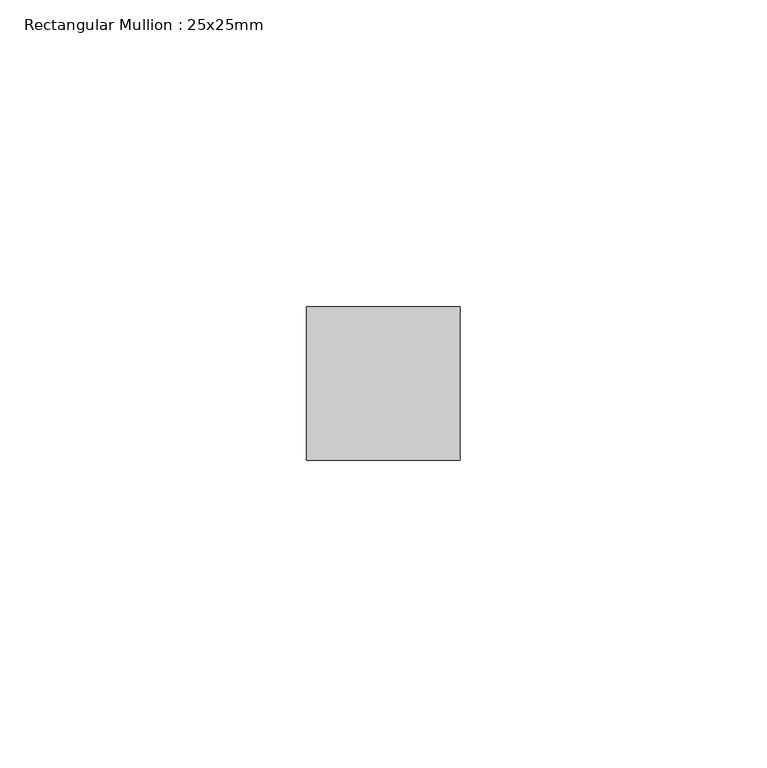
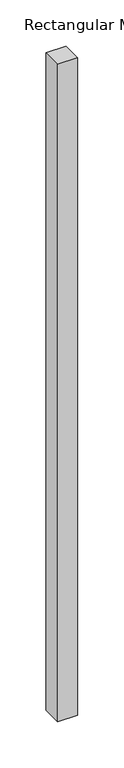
"""IFC4 building model written with IfcOpenShell, lengths in millimetres: member geometry, Rectangular Mullion : 25x25mm."""

import ifcopenshell
import ifcopenshell.guid

model = None  # the IFC model being written
_history = None  # IfcOwnerHistory: only IFC2X3 demands one
_inside = {}  # id of a spatial element -> (the spatial element, [elements in it])
_under = {}  # id of a project, library or spatial element -> (it, [spatial elements below it])
_declared = {}  # id of a project -> (the project, [libraries it declares])
_typed = {}  # id of a type object -> (the type object, [elements of that type])
_made_of = {}  # id of a material, layer set ... -> (it, [elements and type objects made of it])


def new_model(schema):
    """Start an empty IFC model of exactly this schema.

    Asked for "IFC4X3", IfcOpenShell would pick the latest addendum, in which some entities
    have other attributes; the version numbers below select the first issue.
    IFC2X3 requires an IfcOwnerHistory on every rooted entity: one is made here for all.
    """
    global model, _history
    if schema == "IFC4X3":
        model = ifcopenshell.file(schema_version=(4, 3, 0, 0))
    else:
        model = ifcopenshell.file(schema=schema)
    _inside.clear()
    _under.clear()
    _declared.clear()
    _typed.clear()
    _made_of.clear()
    _history = None
    if model.schema == "IFC2X3":
        org = make("IfcOrganization", Name="unknown")
        user = make(
            "IfcPersonAndOrganization",
            ThePerson=make("IfcPerson", FamilyName="unknown"),
            TheOrganization=org,
        )
        app = make(
            "IfcApplication",
            ApplicationDeveloper=org,
            Version="unknown",
            ApplicationFullName="unknown",
            ApplicationIdentifier="unknown",
        )
        _history = make(
            "IfcOwnerHistory",
            OwningUser=user,
            OwningApplication=app,
            ChangeAction="ADDED",
            CreationDate=0,
        )
    return model


def make(cls, **values):
    """One entity of the class cls with the attributes given. An attribute that is None is left unset."""
    return model.create_entity(
        cls, **{name: value for name, value in values.items() if value is not None}
    )


def rooted(cls, **values):
    """An entity with a GlobalId (a new one), such as an element, a storey or a relation."""
    return make(cls, GlobalId=ifcopenshell.guid.new(), OwnerHistory=_history, **values)


def si_unit(unit_type, name, prefix=None):
    """IfcSIUnit, for example si_unit("LENGTHUNIT", "METRE", prefix="MILLI")."""
    return make("IfcSIUnit", UnitType=unit_type, Prefix=prefix, Name=name)


def assignment(units):
    """IfcUnitAssignment: the units of a project."""
    return None if units is None else make("IfcUnitAssignment", Units=units)


def point(xyz):
    """IfcCartesianPoint."""
    return None if xyz is None else make("IfcCartesianPoint", Coordinates=xyz)


def direction(xyz):
    """IfcDirection."""
    return None if xyz is None else make("IfcDirection", DirectionRatios=xyz)


def frame(location, z_axis=None, x_axis=None):
    """IfcAxis2Placement3D, a coordinate frame: its origin and axes. An axis left out is left unset."""
    return make(
        "IfcAxis2Placement3D",
        Location=point(location),
        Axis=direction(z_axis),
        RefDirection=direction(x_axis),
    )


def origin():
    """The frame at (0, 0, 0) with its axes left unset."""
    return frame((0.0, 0.0, 0.0))


def place(relative_to, where):
    """IfcLocalPlacement: puts the frame where relative to a parent placement (None: the world)."""
    return make(
        "IfcLocalPlacement", PlacementRelTo=relative_to, RelativePlacement=where
    )


def context(
    kind, dimensions, precision=None, world=None, true_north=None, identifier=None
):
    """IfcGeometricRepresentationContext, for example the 3D "Model" context."""
    return make(
        "IfcGeometricRepresentationContext",
        ContextIdentifier=identifier,
        ContextType=kind,
        CoordinateSpaceDimension=dimensions,
        Precision=precision,
        WorldCoordinateSystem=world,
        TrueNorth=true_north,
    )


def project(units=None, contexts=None):
    """IfcProject with its units and contexts."""
    return rooted(
        "IfcProject",
        Name="project",
        RepresentationContexts=contexts,
        UnitsInContext=assignment(units),
    )


def spatial(cls, under=None, at=None, **own):
    """A site, building, storey or space (cls), placed at a placement, below another one or the project."""
    s = rooted(cls, ObjectPlacement=at, **own)
    if under is not None:
        _under.setdefault(under.id(), (under, []))[1].append(s)
    return s


def polyline(points):
    """IfcPolyline through the points."""
    return make("IfcPolyline", Points=[point(p) for p in points])


def outline(outer, holes=None, kind="AREA"):
    """IfcArbitraryClosedProfileDef: a profile drawn as a closed curve; with holes, ...WithVoids."""
    if holes is None:
        return make("IfcArbitraryClosedProfileDef", ProfileType=kind, OuterCurve=outer)
    return make(
        "IfcArbitraryProfileDefWithVoids",
        ProfileType=kind,
        OuterCurve=outer,
        InnerCurves=holes,
    )


def extrude(swept, where, along, depth):
    """IfcExtrudedAreaSolid: the profile swept, set in the frame where, extruded along a direction by depth."""
    return make(
        "IfcExtrudedAreaSolid",
        SweptArea=swept,
        Position=where,
        ExtrudedDirection=direction(along),
        Depth=depth,
    )


def shape(context_of_items, identifier, shape_type, items):
    """IfcShapeRepresentation: the items that make up one representation, for example the "Body"."""
    return make(
        "IfcShapeRepresentation",
        ContextOfItems=context_of_items,
        RepresentationIdentifier=identifier,
        RepresentationType=shape_type,
        Items=items,
    )


def source(mapping_origin, context_of_items, identifier, shape_type, items):
    """IfcRepresentationMap: a shape defined once, which mapped items show again and again."""
    return make(
        "IfcRepresentationMap",
        MappingOrigin=mapping_origin,
        MappedRepresentation=shape(context_of_items, identifier, shape_type, items),
    )


def transform(
    local_origin,
    x_axis=None,
    y_axis=None,
    z_axis=None,
    scale=None,
    scale2=None,
    scale3=None,
    uniform=True,
):
    """IfcCartesianTransformationOperator3D, or its non-uniform kind. x_axis, y_axis, z_axis: its Axis1, 2, 3."""
    if uniform:
        return make(
            "IfcCartesianTransformationOperator3D",
            Axis1=direction(x_axis),
            Axis2=direction(y_axis),
            LocalOrigin=point(local_origin),
            Scale=scale,
            Axis3=direction(z_axis),
        )
    return make(
        "IfcCartesianTransformationOperator3DnonUniform",
        Axis1=direction(x_axis),
        Axis2=direction(y_axis),
        LocalOrigin=point(local_origin),
        Scale=scale,
        Axis3=direction(z_axis),
        Scale2=scale2,
        Scale3=scale3,
    )


def mapped(mapping_source, mapping_target):
    """IfcMappedItem: shows the shape of a source again, moved by a transform."""
    return make(
        "IfcMappedItem", MappingSource=mapping_source, MappingTarget=mapping_target
    )


def made_of(thing, what):
    """Note that an element or type object is made of a material, layer set ...; save() writes the relation."""
    if what is not None:
        _made_of.setdefault(what.id(), (what, []))[1].append(thing)
    return thing


def element(
    cls,
    number,
    at=None,
    inside=None,
    cuts=None,
    type_object=None,
    material=None,
    context=None,
    identifier="Body",
    shape_type=None,
    held_by="IfcProductDefinitionShape",
    body=None,
    shapes=None,
    **own,
):
    """One element of the class cls, such as IfcWall. Its Tag is "e" and its number.

    at: its placement. inside: the storey or other place that contains it. cuts: it is an
    opening in that element (IfcRelVoidsElement). A single representation is given by context,
    identifier, shape_type and body (its items); several are given by shapes. held_by: the class
    of the entity that holds the representations. save() writes the other relations.
    """
    e = rooted(cls, Tag="e%d" % number, ObjectPlacement=at, **own)
    if body is not None:
        shapes = [shape(context, identifier, shape_type, body)]
    if shapes is not None:
        e.Representation = make(held_by, Representations=shapes)
    if inside is not None:
        _inside.setdefault(inside.id(), (inside, []))[1].append(e)
    if cuts is not None:
        rooted(
            "IfcRelVoidsElement", RelatingBuildingElement=cuts, RelatedOpeningElement=e
        )
    if type_object is not None:
        _typed.setdefault(type_object.id(), (type_object, []))[1].append(e)
    return made_of(e, material)


def aggregate(whole, parts):
    """IfcRelAggregates: a whole, such as a stair, and the parts it consists of."""
    return rooted("IfcRelAggregates", RelatingObject=whole, RelatedObjects=parts)


def save(model, path):
    """Write the relations noted so far, then the file.

    IfcRelAggregates (storeys below a building ...), IfcRelContainedInSpatialStructure (elements
    in a storey), IfcRelDefinesByType, IfcRelAssociatesMaterial and IfcRelDeclares: one each for
    every whole, place, type object, material and project.
    """
    for whole, parts in _under.values():
        aggregate(whole, parts)
    for where, things in _inside.values():
        rooted(
            "IfcRelContainedInSpatialStructure",
            RelatedElements=things,
            RelatingStructure=where,
        )
    for kind, things in _typed.values():
        rooted("IfcRelDefinesByType", RelatedObjects=things, RelatingType=kind)
    for what, things in _made_of.values():
        rooted("IfcRelAssociatesMaterial", RelatedObjects=things, RelatingMaterial=what)
    for by, libraries in _declared.values():
        rooted("IfcRelDeclares", RelatingContext=by, RelatedDefinitions=libraries)
    model.write(path)


def rectangular_mullion_25x25mm_58970ee0(model_context):
    return source(origin(), model_context, "Body", "SweptSolid", [
        extrude(outline(polyline([(0.0, 0.5), (0.0, -24.5), (-25.0, -24.5), (-25.0, 0.5), (0.0, 0.5)])), frame((0.0, 0.0, -865.7500002), z_axis=(0.0, 0.0, 1.0), x_axis=(1.0, 0.0, 0.0)), (0.0, 0.0, 1.0), 865.7500002),
    ])


if __name__ == "__main__":
    model = new_model("IFC4")
    model_context = context("Model", 3, world=origin())
    ifc_project = project(units=[si_unit("LENGTHUNIT", "METRE", prefix="MILLI")], contexts=[model_context])
    site = spatial("IfcSite", under=ifc_project)
    building = spatial("IfcBuilding", under=site)
    placement = place(None, origin())
    rectangular_mullion_25x25mm_shape = rectangular_mullion_25x25mm_58970ee0(model_context)
    element("IfcMember", 1, ObjectType="Rectangular Mullion : 25x25mm", at=placement, inside=building, context=model_context, shape_type="MappedRepresentation", body=[
        mapped(rectangular_mullion_25x25mm_shape, transform((0.0, 0.0, 0.0), x_axis=(1.0, 0.0, 0.0), y_axis=(0.0, 1.0, 0.0), z_axis=(0.0, 0.0, 1.0))),
    ])
    save(model, "model.ifc")
